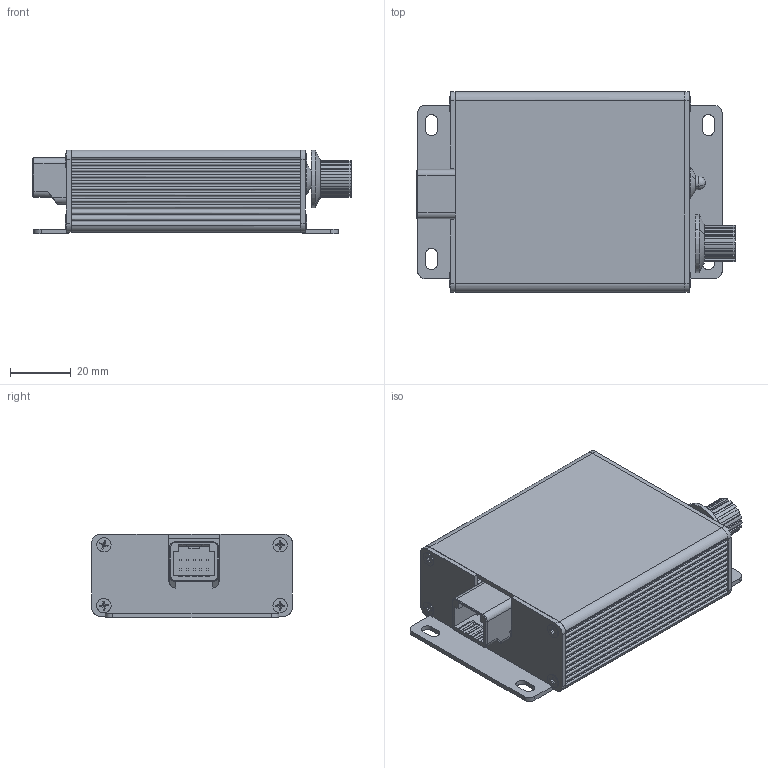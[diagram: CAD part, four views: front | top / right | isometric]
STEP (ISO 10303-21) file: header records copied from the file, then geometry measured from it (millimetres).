
FILE_DESCRIPTION(('CATIA V5 STEP Exchange','CAx-IF Rec.Pracs.--- Model Styling and Organization---1.5--- 2016-08-15','CAx-IF Rec.Pracs.---Supplemental Geometry---1.0---2011-11-01','CAx-IF Rec.Pracs.--- Composite Materials ---1.1---2010-07-15'),'2;1');
FILE_NAME('\\arj-synology-1\ARJ社内Project\市販用 C-EPS 小型\ユーザー向け資料\3Dデータ_260305\EC10_ACB.stp','2026-03-12T07:04:29+00:00',('none'),('none'),'CATIA Version 5-6 Release 2023 SP5 HF3','CATIA V5 STEP AP214 v3','none');
FILE_SCHEMA(('AUTOMOTIVE_DESIGN { 1 0 10303 214 1 1 1 1 }'));
Length unit declared in the file: millimetre
Products named in the file (1): EC10_ACB
Bounding box: 104.51 x 66 x 27.5 mm (x, y, z)
Volume: 34445.1 mm3; surface area: 48423.6 mm2
Topology: 13 solids, 14 shells, 909 faces, 2474 edges, 1619 vertices
Faces by surface type: plane 640, cylinder 209, revolution 60
Entity records: 29102 total; most frequent: CARTESIAN_POINT 7653, ORIENTED_EDGE 4932, DIRECTION 3431, EDGE_CURVE 2470, VECTOR 1920, LINE 1920, VERTEX_POINT 1619, EDGE_LOOP 971
